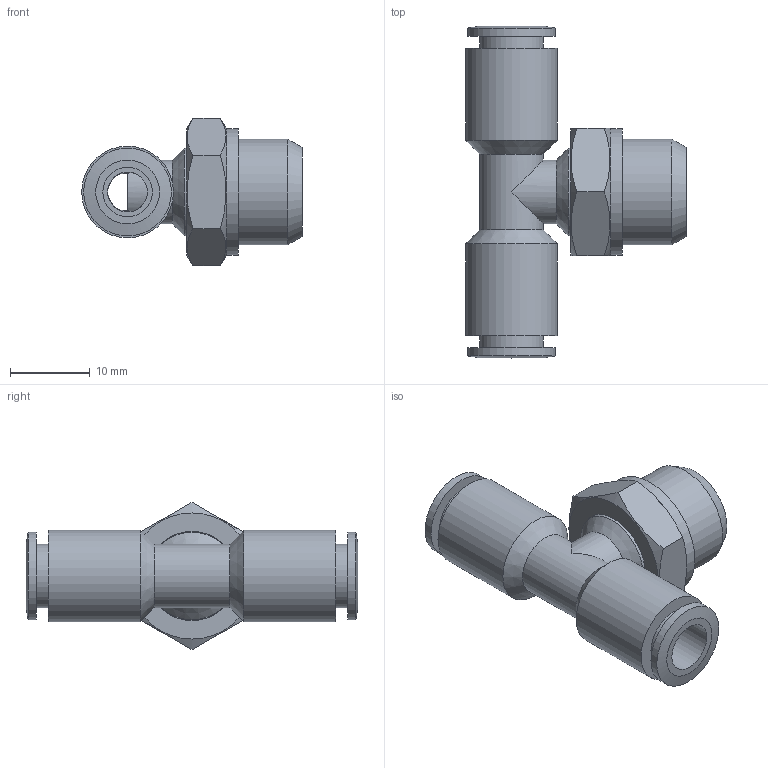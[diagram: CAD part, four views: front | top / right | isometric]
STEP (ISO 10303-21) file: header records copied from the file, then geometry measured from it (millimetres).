
FILE_DESCRIPTION((''),'2;1');
FILE_NAME('C:\Documents and Settings\rivolro1\Documenti\copia di Raccordi\PLASTICA\T20XXXX\T200614.stp','2007-10-31T15:26:29',('Rivolro1'),(''),'Autodesk Inventor 2008','Autodesk Inventor 2008','');
FILE_SCHEMA(('AUTOMOTIVE_DESIGN { 1 0 10303 214 1 1 1 1 }'));
Length unit declared in the file: millimetre
Products named in the file (1): T200614
Bounding box: 27.65 x 41.6 x 18.48 mm (x, y, z)
Volume: 4726.1 mm3; surface area: 3990.4 mm2
Topology: 1 solids, 1 shells, 46 faces, 94 edges, 60 vertices
Faces by surface type: plane 18, cylinder 15, cone 8, bspline 5
Full cylindrical faces by diameter (mm): 5 x1, 8 x4, 11 x3, 11.2 x1, 11.5 x2, 13.2 x1, 15.8 x1
Entity records: 1223 total; most frequent: CARTESIAN_POINT 306, DIRECTION 174, ORIENTED_EDGE 128, EDGE_LOOP 84, AXIS2_PLACEMENT_3D 82, EDGE_CURVE 64, VERTEX_POINT 54, FACE_OUTER_BOUND 46
